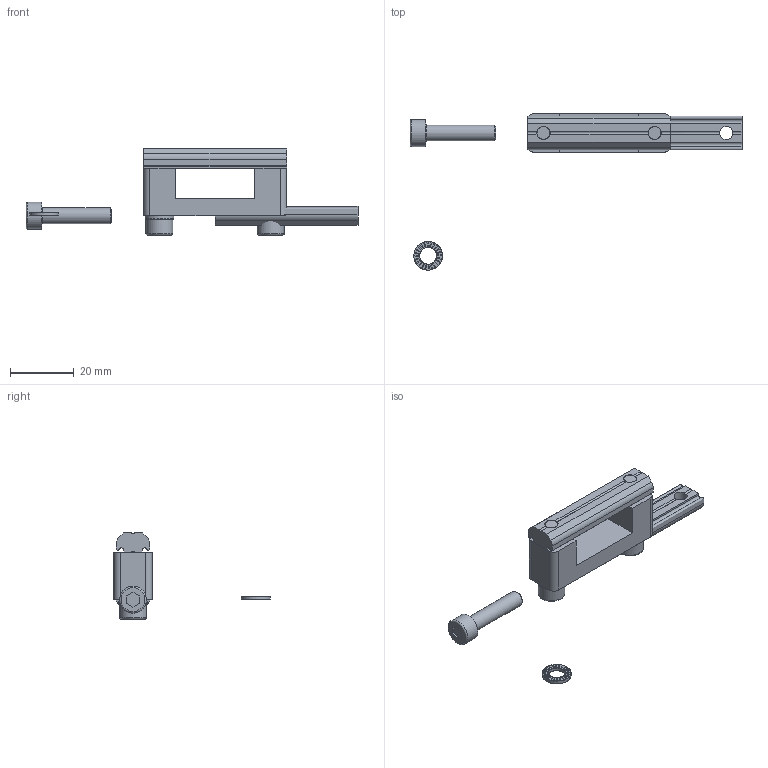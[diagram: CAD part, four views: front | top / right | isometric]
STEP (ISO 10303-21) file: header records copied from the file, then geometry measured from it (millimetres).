
FILE_DESCRIPTION( ( 'Unknown' ), '1' );
FILE_NAME( 'C:/Users/Fabrizio/Desktop/DISEGNI ACCESSORI FP SOLIDEDGE/CA.KBVX.2510.stp', 'Unknown', ( 'Unknown' ), ( 'Unknown' ), 'PSStep 13.0', 'Unknown', ' ' );
FILE_SCHEMA( ( 'AUTOMOTIVE_DESIGN { 1 0 10303 214 1 1 1 1 }' ) );
Length unit declared in the file: millimetre
Products named in the file (5): Assem1; KBVX.2510; R.5.SCH; CA.GWP.5.35; V-tcei M  5 x 22
Bounding box: 104.5 x 49.14 x 27.1 mm (x, y, z)
Volume: 15684.5 mm3; surface area: 11242.6 mm2
Topology: 7 solids, 10 shells, 713 faces, 2083 edges, 1379 vertices
Faces by surface type: plane 652, cylinder 52, torus 6, cone 3
Full cylindrical faces by diameter (mm): 4.134 x4, 5 x3, 5.2 x4, 5.3 x3, 8.5 x3, 9 x3
Entity records: 10159 total; most frequent: CARTESIAN_POINT 1538, DIRECTION 1467, ORIENTED_EDGE 1444, EDGE_CURVE 722, AXIS2_PLACEMENT_3D 494, VERTEX_POINT 485, LINE 479, VECTOR 479
